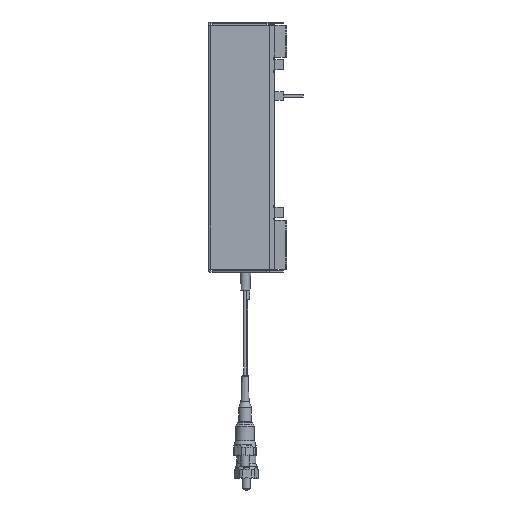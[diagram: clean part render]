
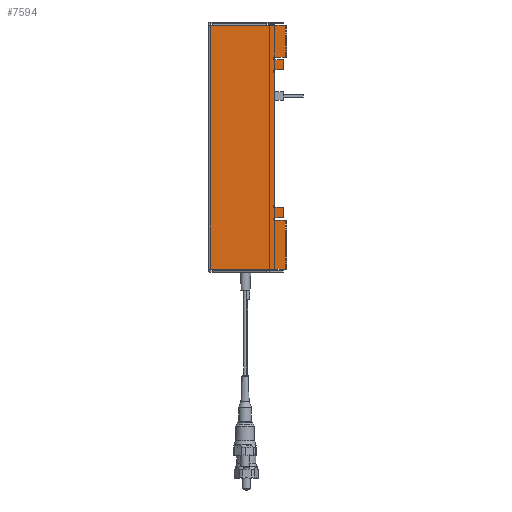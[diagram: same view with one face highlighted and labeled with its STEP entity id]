
A CAD part, left-side view. The second image highlights one B-rep face of the part: STEP entity #7594.
In plain terms, the highlighted planar face has unit normal (-1, 0, 0).
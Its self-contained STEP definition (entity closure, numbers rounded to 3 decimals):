
#183 = VECTOR ( 'NONE', #17086, 1000. ) ;
#327 = EDGE_CURVE ( 'NONE', #2688, #18492, #34905, .T. ) ;
#1185 = ORIENTED_EDGE ( 'NONE', *, *, #18726, .F. ) ;
#1233 = VERTEX_POINT ( 'NONE', #26298 ) ;
#1376 = LINE ( 'NONE', #39547, #183 ) ;
#1463 = LINE ( 'NONE', #45952, #30171 ) ;
#1495 = EDGE_CURVE ( 'NONE', #33172, #1233, #28696, .T. ) ;
#2069 = DIRECTION ( 'NONE',  ( 0., 1., 0. ) ) ;
#2398 = DIRECTION ( 'NONE',  ( 0., 0., 1. ) ) ;
#2688 = VERTEX_POINT ( 'NONE', #30021 ) ;
#3058 = EDGE_CURVE ( 'NONE', #14279, #1233, #37334, .T. ) ;
#3105 = CARTESIAN_POINT ( 'NONE',  ( 11.722, 25.5, 5.27 ) ) ;
#3702 = EDGE_CURVE ( 'NONE', #10427, #12458, #39582, .T. ) ;
#3788 = FACE_OUTER_BOUND ( 'NONE', #34184, .T. ) ;
#3832 = VECTOR ( 'NONE', #34381, 1000. ) ;
#4094 = DIRECTION ( 'NONE',  ( -1., 0., 0. ) ) ;
#4239 = LINE ( 'NONE', #46768, #23026 ) ;
#4630 = CARTESIAN_POINT ( 'NONE',  ( 11.722, 3.9, 6.22 ) ) ;
#5497 = CARTESIAN_POINT ( 'NONE',  ( 11.722, 6.4, -52.086 ) ) ;
#5984 = DIRECTION ( 'NONE',  ( 0., -1., 0. ) ) ;
#6329 = VECTOR ( 'NONE', #41412, 1000. ) ;
#7594 = ADVANCED_FACE ( 'NONE', ( #3788 ), #43381, .T. ) ;
#7882 = ORIENTED_EDGE ( 'NONE', *, *, #23041, .F. ) ;
#8727 = VECTOR ( 'NONE', #24231, 1000. ) ;
#8737 = AXIS2_PLACEMENT_3D ( 'NONE', #21083, #24837, #2398 ) ;
#8959 = ORIENTED_EDGE ( 'NONE', *, *, #33692, .F. ) ;
#9283 = DIRECTION ( 'NONE',  ( 0., 0., 1. ) ) ;
#10025 = VERTEX_POINT ( 'NONE', #41778 ) ;
#10091 = DIRECTION ( 'NONE',  ( -1., 0., 0. ) ) ;
#10174 = CARTESIAN_POINT ( 'NONE',  ( 11.722, 3.4, 5.27 ) ) ;
#10427 = VERTEX_POINT ( 'NONE', #12886 ) ;
#10585 = CARTESIAN_POINT ( 'NONE',  ( 11.722, 6.4, -8.386 ) ) ;
#11107 = DIRECTION ( 'NONE',  ( 0., 0., -1. ) ) ;
#11165 = LINE ( 'NONE', #35921, #38618 ) ;
#12458 = VERTEX_POINT ( 'NONE', #27804 ) ;
#12631 = EDGE_CURVE ( 'NONE', #21535, #25796, #18150, .T. ) ;
#12886 = CARTESIAN_POINT ( 'NONE',  ( 11.722, 3.4, -52.486 ) ) ;
#12965 = CARTESIAN_POINT ( 'NONE',  ( 11.722, 6.4, -4.186 ) ) ;
#13649 = AXIS2_PLACEMENT_3D ( 'NONE', #10585, #36718, #14367 ) ;
#14152 = AXIS2_PLACEMENT_3D ( 'NONE', #5497, #31686, #9283 ) ;
#14279 = VERTEX_POINT ( 'NONE', #44850 ) ;
#14367 = DIRECTION ( 'NONE',  ( 0., 0., 1. ) ) ;
#14656 = EDGE_CURVE ( 'NONE', #10025, #45574, #15100, .T. ) ;
#15100 = CIRCLE ( 'NONE', #13649, 0.4 ) ;
#15174 = ORIENTED_EDGE ( 'NONE', *, *, #23023, .T. ) ;
#15282 = CARTESIAN_POINT ( 'NONE',  ( 11.722, 3., -48.686 ) ) ;
#15385 = DIRECTION ( 'NONE',  ( 0., 0., -1. ) ) ;
#15551 = ORIENTED_EDGE ( 'NONE', *, *, #39826, .T. ) ;
#15691 = CARTESIAN_POINT ( 'NONE',  ( 11.722, 3.4, -52.486 ) ) ;
#15952 = VERTEX_POINT ( 'NONE', #10174 ) ;
#16166 = CARTESIAN_POINT ( 'NONE',  ( 11.722, 3.9, -4.986 ) ) ;
#16874 = VERTEX_POINT ( 'NONE', #25863 ) ;
#17086 = DIRECTION ( 'NONE',  ( 0., 1., 0. ) ) ;
#17915 = LINE ( 'NONE', #48427, #20264 ) ;
#18086 = EDGE_CURVE ( 'NONE', #33172, #2688, #35681, .T. ) ;
#18150 = CIRCLE ( 'NONE', #29262, 0.4 ) ;
#18483 = CARTESIAN_POINT ( 'NONE',  ( 11.722, 6.4, 0. ) ) ;
#18492 = VERTEX_POINT ( 'NONE', #25365 ) ;
#18702 = LINE ( 'NONE', #42776, #8727 ) ;
#18726 = EDGE_CURVE ( 'NONE', #15952, #16874, #36182, .T. ) ;
#19609 = CARTESIAN_POINT ( 'NONE',  ( 11.722, 6.4, -52.486 ) ) ;
#19719 = DIRECTION ( 'NONE',  ( 0., 0., -1. ) ) ;
#20264 = VECTOR ( 'NONE', #26192, 1000. ) ;
#20405 = CARTESIAN_POINT ( 'NONE',  ( 11.722, 6.4, -4.986 ) ) ;
#20435 = EDGE_CURVE ( 'NONE', #28156, #15952, #36752, .T. ) ;
#21083 = CARTESIAN_POINT ( 'NONE',  ( 11.722, 22.6, 35.52 ) ) ;
#21107 = VECTOR ( 'NONE', #32248, 1000. ) ;
#21535 = VERTEX_POINT ( 'NONE', #12965 ) ;
#21610 = ORIENTED_EDGE ( 'NONE', *, *, #33696, .F. ) ;
#21893 = ORIENTED_EDGE ( 'NONE', *, *, #20435, .F. ) ;
#22393 = CARTESIAN_POINT ( 'NONE',  ( 11.722, 3.9, -7.986 ) ) ;
#22766 = CARTESIAN_POINT ( 'NONE',  ( 11.722, 3.9, 35.52 ) ) ;
#23023 = EDGE_CURVE ( 'NONE', #28156, #27235, #1463, .T. ) ;
#23026 = VECTOR ( 'NONE', #2069, 1000. ) ;
#23041 = EDGE_CURVE ( 'NONE', #18492, #25758, #41189, .T. ) ;
#24231 = DIRECTION ( 'NONE',  ( 0., 1., 0. ) ) ;
#24307 = ORIENTED_EDGE ( 'NONE', *, *, #1495, .T. ) ;
#24516 = EDGE_CURVE ( 'NONE', #12458, #27235, #1376, .T. ) ;
#24837 = DIRECTION ( 'NONE',  ( -1., 0., 0. ) ) ;
#25365 = CARTESIAN_POINT ( 'NONE',  ( 11.722, 6.4, -51.686 ) ) ;
#25728 = VERTEX_POINT ( 'NONE', #16166 ) ;
#25758 = VERTEX_POINT ( 'NONE', #19609 ) ;
#25796 = VERTEX_POINT ( 'NONE', #20405 ) ;
#25863 = CARTESIAN_POINT ( 'NONE',  ( 11.722, 3.4, -4.186 ) ) ;
#26192 = DIRECTION ( 'NONE',  ( 0., 1., 0. ) ) ;
#26298 = CARTESIAN_POINT ( 'NONE',  ( 11.722, 6.4, -48.686 ) ) ;
#26580 = CARTESIAN_POINT ( 'NONE',  ( 11.722, 6.4, -48.286 ) ) ;
#27134 = ORIENTED_EDGE ( 'NONE', *, *, #24516, .F. ) ;
#27235 = VERTEX_POINT ( 'NONE', #32553 ) ;
#27472 = VERTEX_POINT ( 'NONE', #22393 ) ;
#27804 = CARTESIAN_POINT ( 'NONE',  ( 11.722, 3.4, -66.942 ) ) ;
#27873 = VECTOR ( 'NONE', #11107, 1000. ) ;
#28129 = VECTOR ( 'NONE', #19719, 1000. ) ;
#28156 = VERTEX_POINT ( 'NONE', #3105 ) ;
#28696 = LINE ( 'NONE', #15282, #21107 ) ;
#29262 = AXIS2_PLACEMENT_3D ( 'NONE', #32510, #10091, #36233 ) ;
#29720 = VECTOR ( 'NONE', #15385, 1000. ) ;
#30021 = CARTESIAN_POINT ( 'NONE',  ( 11.722, 3.9, -51.686 ) ) ;
#30171 = VECTOR ( 'NONE', #31525, 1000. ) ;
#30306 = DIRECTION ( 'NONE',  ( 0., 0., 1. ) ) ;
#31494 = ORIENTED_EDGE ( 'NONE', *, *, #14656, .F. ) ;
#31525 = DIRECTION ( 'NONE',  ( 0., 0., -1. ) ) ;
#31686 = DIRECTION ( 'NONE',  ( -1., 0., 0. ) ) ;
#32185 = DIRECTION ( 'NONE',  ( 0., 1., 0. ) ) ;
#32248 = DIRECTION ( 'NONE',  ( 0., 1., 0. ) ) ;
#32510 = CARTESIAN_POINT ( 'NONE',  ( 11.722, 6.4, -4.586 ) ) ;
#32553 = CARTESIAN_POINT ( 'NONE',  ( 11.722, 25.5, -66.942 ) ) ;
#33172 = VERTEX_POINT ( 'NONE', #38083 ) ;
#33250 = DIRECTION ( 'NONE',  ( 0., 0., -1. ) ) ;
#33692 = EDGE_CURVE ( 'NONE', #45574, #14279, #37746, .T. ) ;
#33696 = EDGE_CURVE ( 'NONE', #16874, #21535, #17915, .T. ) ;
#34003 = CARTESIAN_POINT ( 'NONE',  ( 11.722, 3.4, 5.27 ) ) ;
#34066 = ORIENTED_EDGE ( 'NONE', *, *, #45384, .T. ) ;
#34184 = EDGE_LOOP ( 'NONE', ( #31494, #38038, #35224, #15551, #39349, #21610, #1185, #21893, #15174, #27134, #35121, #34066, #7882, #40739, #35142, #24307, #43512, #8959 ) ) ;
#34381 = DIRECTION ( 'NONE',  ( 0., 1., 0. ) ) ;
#34905 = LINE ( 'NONE', #36281, #3832 ) ;
#35121 = ORIENTED_EDGE ( 'NONE', *, *, #3702, .F. ) ;
#35142 = ORIENTED_EDGE ( 'NONE', *, *, #18086, .F. ) ;
#35224 = ORIENTED_EDGE ( 'NONE', *, *, #37580, .F. ) ;
#35681 = LINE ( 'NONE', #22766, #44346 ) ;
#35921 = CARTESIAN_POINT ( 'NONE',  ( 11.722, 3., -7.986 ) ) ;
#36182 = LINE ( 'NONE', #34003, #6329 ) ;
#36233 = DIRECTION ( 'NONE',  ( 0., 0., 1. ) ) ;
#36245 = CARTESIAN_POINT ( 'NONE',  ( 11.722, 6.4, -8.786 ) ) ;
#36281 = CARTESIAN_POINT ( 'NONE',  ( 11.722, 3., -51.686 ) ) ;
#36718 = DIRECTION ( 'NONE',  ( -1., 0., 0. ) ) ;
#36752 = LINE ( 'NONE', #46925, #43112 ) ;
#37158 = EDGE_CURVE ( 'NONE', #27472, #10025, #11165, .T. ) ;
#37334 = CIRCLE ( 'NONE', #44879, 0.4 ) ;
#37580 = EDGE_CURVE ( 'NONE', #25728, #27472, #38005, .T. ) ;
#37746 = LINE ( 'NONE', #18483, #27873 ) ;
#38005 = LINE ( 'NONE', #4630, #28129 ) ;
#38038 = ORIENTED_EDGE ( 'NONE', *, *, #37158, .F. ) ;
#38083 = CARTESIAN_POINT ( 'NONE',  ( 11.722, 3.9, -48.686 ) ) ;
#38618 = VECTOR ( 'NONE', #32185, 1000. ) ;
#39349 = ORIENTED_EDGE ( 'NONE', *, *, #12631, .F. ) ;
#39547 = CARTESIAN_POINT ( 'NONE',  ( 11.722, 22.6, -66.942 ) ) ;
#39582 = LINE ( 'NONE', #15691, #29720 ) ;
#39826 = EDGE_CURVE ( 'NONE', #25728, #25796, #18702, .T. ) ;
#40739 = ORIENTED_EDGE ( 'NONE', *, *, #327, .F. ) ;
#41189 = CIRCLE ( 'NONE', #14152, 0.4 ) ;
#41412 = DIRECTION ( 'NONE',  ( 0., 0., -1. ) ) ;
#41778 = CARTESIAN_POINT ( 'NONE',  ( 11.722, 6.4, -7.986 ) ) ;
#42776 = CARTESIAN_POINT ( 'NONE',  ( 11.722, 3., -4.986 ) ) ;
#43112 = VECTOR ( 'NONE', #5984, 1000. ) ;
#43381 = PLANE ( 'NONE',  #8737 ) ;
#43512 = ORIENTED_EDGE ( 'NONE', *, *, #3058, .F. ) ;
#44346 = VECTOR ( 'NONE', #33250, 1000. ) ;
#44850 = CARTESIAN_POINT ( 'NONE',  ( 11.722, 6.4, -47.886 ) ) ;
#44879 = AXIS2_PLACEMENT_3D ( 'NONE', #26580, #4094, #30306 ) ;
#45384 = EDGE_CURVE ( 'NONE', #10427, #25758, #4239, .T. ) ;
#45574 = VERTEX_POINT ( 'NONE', #36245 ) ;
#45952 = CARTESIAN_POINT ( 'NONE',  ( 11.722, 25.5, 35.52 ) ) ;
#46768 = CARTESIAN_POINT ( 'NONE',  ( 11.722, 3.4, -52.486 ) ) ;
#46925 = CARTESIAN_POINT ( 'NONE',  ( 11.722, 22.6, 5.27 ) ) ;
#48427 = CARTESIAN_POINT ( 'NONE',  ( 11.722, 3.4, -4.186 ) ) ;
